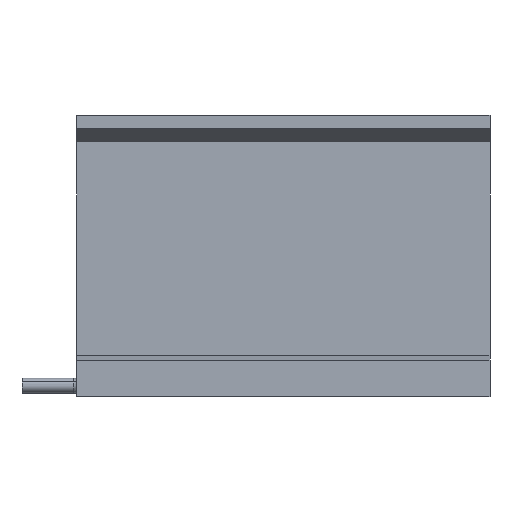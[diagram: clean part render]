
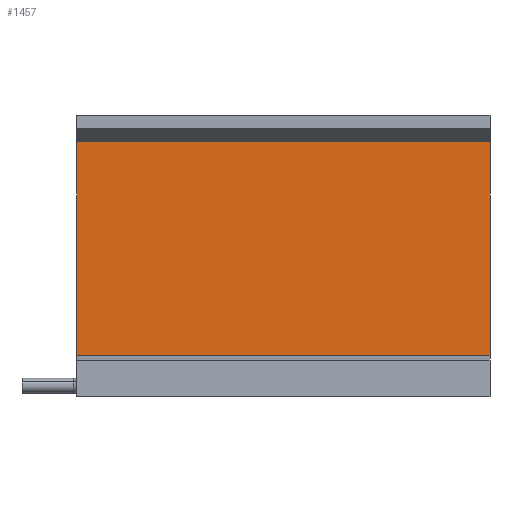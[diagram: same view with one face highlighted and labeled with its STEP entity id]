
A CAD part, left-side view. The second image highlights one B-rep face of the part: STEP entity #1457.
In plain terms, the highlighted planar face has unit normal (-1, 0, 0) as drawn and (1, 0, 0) by its records, which use the part's own axes.
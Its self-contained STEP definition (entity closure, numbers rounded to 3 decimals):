
#70 = FACE_OUTER_BOUND ( 'NONE', #2997, .T. ) ;
#413 = LINE ( 'NONE', #3472, #1612 ) ;
#429 = EDGE_CURVE ( 'NONE', #1514, #1997, #2554, .T. ) ;
#552 = VECTOR ( 'NONE', #3717, 1000. ) ;
#655 = ORIENTED_EDGE ( 'NONE', *, *, #1860, .F. ) ;
#695 = DIRECTION ( 'NONE',  ( 0., 0., 1. ) ) ;
#704 = CARTESIAN_POINT ( 'NONE',  ( 21.35, 154.11, 0. ) ) ;
#759 = PLANE ( 'NONE',  #2878 ) ;
#763 = VECTOR ( 'NONE', #2563, 1000. ) ;
#1146 = EDGE_CURVE ( 'NONE', #2682, #1997, #3575, .T. ) ;
#1172 = DIRECTION ( 'NONE',  ( 0., 1., 0. ) ) ;
#1426 = CARTESIAN_POINT ( 'NONE',  ( 21.35, 17.11, 0. ) ) ;
#1457 = ADVANCED_FACE ( 'NONE', ( #70 ), #759, .F. ) ;
#1514 = VERTEX_POINT ( 'NONE', #1426 ) ;
#1612 = VECTOR ( 'NONE', #1172, 1000. ) ;
#1785 = VERTEX_POINT ( 'NONE', #4380 ) ;
#1860 = EDGE_CURVE ( 'NONE', #1785, #2682, #413, .T. ) ;
#1997 = VERTEX_POINT ( 'NONE', #704 ) ;
#2554 = LINE ( 'NONE', #3288, #3796 ) ;
#2563 = DIRECTION ( 'NONE',  ( 0., 0., -1. ) ) ;
#2623 = ORIENTED_EDGE ( 'NONE', *, *, #429, .T. ) ;
#2639 = DIRECTION ( 'NONE',  ( 0., 1., 0. ) ) ;
#2682 = VERTEX_POINT ( 'NONE', #4137 ) ;
#2878 = AXIS2_PLACEMENT_3D ( 'NONE', #3459, #3721, #695 ) ;
#2995 = EDGE_CURVE ( 'NONE', #1785, #1514, #3783, .T. ) ;
#2997 = EDGE_LOOP ( 'NONE', ( #2623, #3743, #655, #3580 ) ) ;
#3288 = CARTESIAN_POINT ( 'NONE',  ( 21.35, 17.11, 0. ) ) ;
#3413 = CARTESIAN_POINT ( 'NONE',  ( 21.35, 17.11, 265. ) ) ;
#3459 = CARTESIAN_POINT ( 'NONE',  ( 21.35, 17.11, 265. ) ) ;
#3472 = CARTESIAN_POINT ( 'NONE',  ( 21.35, 17.11, 265. ) ) ;
#3575 = LINE ( 'NONE', #4250, #763 ) ;
#3580 = ORIENTED_EDGE ( 'NONE', *, *, #2995, .T. ) ;
#3717 = DIRECTION ( 'NONE',  ( 0., 0., -1. ) ) ;
#3721 = DIRECTION ( 'NONE',  ( -1., 0., 0. ) ) ;
#3743 = ORIENTED_EDGE ( 'NONE', *, *, #1146, .F. ) ;
#3783 = LINE ( 'NONE', #3413, #552 ) ;
#3796 = VECTOR ( 'NONE', #2639, 1000. ) ;
#4137 = CARTESIAN_POINT ( 'NONE',  ( 21.35, 154.11, 265. ) ) ;
#4250 = CARTESIAN_POINT ( 'NONE',  ( 21.35, 154.11, 265. ) ) ;
#4380 = CARTESIAN_POINT ( 'NONE',  ( 21.35, 17.11, 265. ) ) ;
